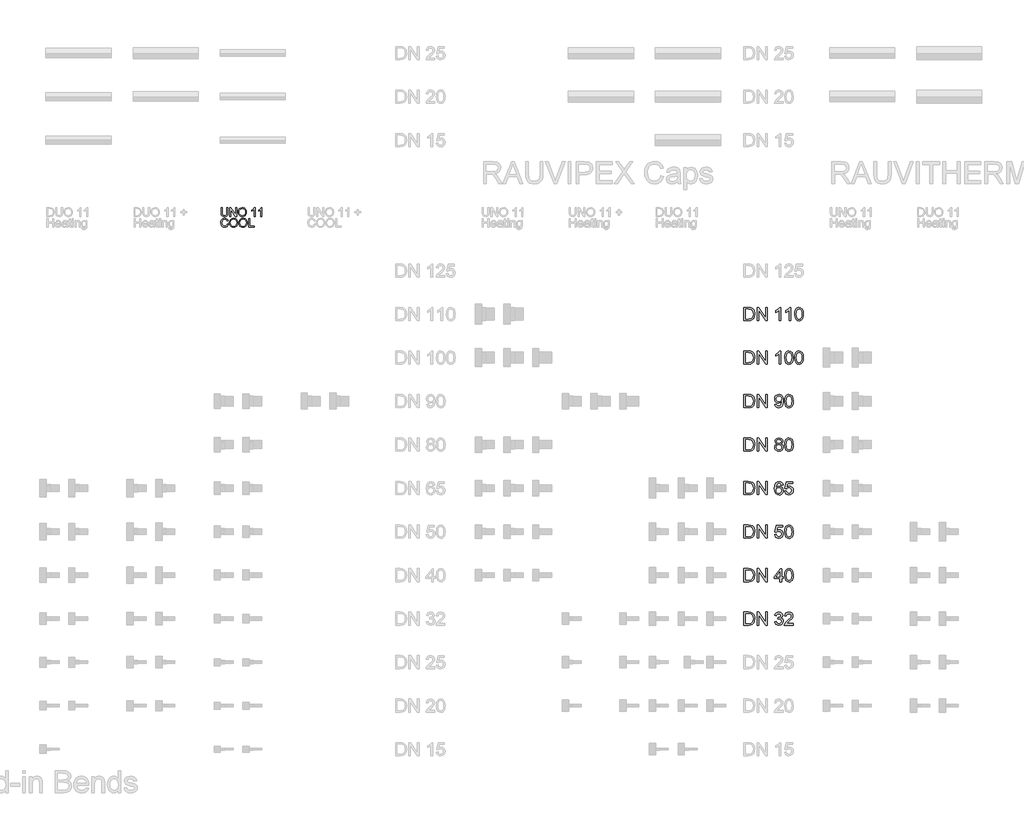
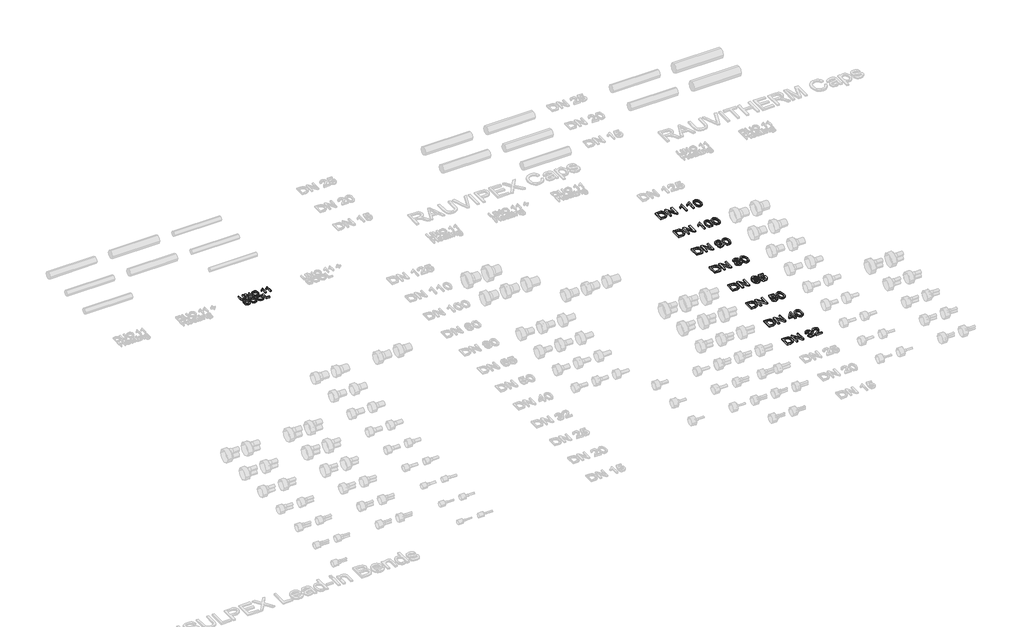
# One storey, part 26 of 44: 9 proxies.
"""IFC4 building model written with IfcOpenShell, lengths in millimetres."""

from ifc_helpers import new_model, si_unit, origin, origin_with_axes, place, context, project, spatial, polyline, outline, extrude, element, save

model = new_model("IFC4")

# Units and contexts
model_context = context("Model", 3, world=origin())
ifc_project = project(units=[si_unit("LENGTHUNIT", "METRE", prefix="MILLI")], contexts=[model_context])

# Site, building, storey
site = spatial("IfcSite", under=ifc_project)
building = spatial("IfcBuilding", under=site)
storey = spatial("IfcBuildingStorey", under=building, Name="REHAU Starting view", Elevation=0.0)

# Proxies
placement = place(None, origin())
element("IfcBuildingElementProxy", 1, Name="100", ObjectType="100", at=placement, inside=storey, context=model_context, shape_type="SweptSolid", body=[
    extrude(outline(polyline([(24076.9118625, 13222.431128), (24089.4689012, 13222.431128), (24089.4689012, 13164.477451), (24086.0598614, 13140.4547567), (24073.7726028, 13125.9847316), (24063.5086951, 13121.8000739), (24050.4734097, 13120.405188), (24027.529836, 13125.2612303), (24019.8901532, 13131.2055902), (24014.8011189, 13139.3265853), (24010.9874089, 13164.477451), (24010.9874089, 13222.431128), (24023.5444477, 13222.431128), (24023.5444477, 13164.9189094), (24026.0215198, 13145.7767829), (24034.5318566, 13136.2976902), (24049.2961874, 13132.9622268), (24062.067824, 13134.6115644), (24070.5597667, 13139.5595772), (24075.3238385, 13149.1980855), (24076.9118625, 13164.9189094), (24076.9118625, 13222.431128)])), origin_with_axes(), (0.0, 0.0, 1.0), 20.0),
    extrude(outline(polyline([(24111.4437191, 13121.9748178), (24111.4437191, 13222.431128), (24124.8836746, 13222.431128), (24177.3681726, 13142.8459897), (24177.3681726, 13222.431128), (24189.9252114, 13222.431128), (24189.9252114, 13121.9748178), (24176.4852558, 13121.9748178), (24124.0007578, 13201.5844816), (24124.0007578, 13121.9748178), (24111.4437191, 13121.9748178)])), origin_with_axes(), (0.0, 0.0, 1.0), 20.0),
    extrude(outline(polyline([(24207.1911397, 13170.8785977), (24210.5388658, 13193.0925389), (24220.5820443, 13209.8986147), (24235.9165921, 13220.4752221), (24255.1384264, 13224.0007578), (24268.3147332, 13222.3452889), (24280.1298766, 13217.3788819), (24289.9400631, 13209.4510249), (24297.1014993, 13198.9112058), (24301.479295, 13186.2683279), (24302.9385603, 13172.0312947), (24301.402653, 13157.6041891), (24296.794931, 13144.7835015), (24289.369846, 13134.2252883), (24279.3818499, 13126.5856055), (24267.667874, 13121.9502924), (24255.06485, 13120.405188), (24241.6862081, 13122.1127736), (24229.8036197, 13127.2355304), (24220.0179586, 13135.3105402), (24212.9300988, 13145.8748848), (24207.1911397, 13170.8785977)]), holes=[polyline([(24219.7481785, 13170.7559704), (24222.2589731, 13155.0412778), (24229.7913569, 13143.0667189), (24241.1129253, 13135.4883498), (24254.9912736, 13132.9622268), (24269.071957, 13135.5128753), (24280.4119195, 13143.1648208), (24287.889121, 13155.5072617), (24290.3815215, 13172.1293965), (24286.1140904, 13192.8534156), (24273.6428907, 13206.575414), (24255.2120028, 13211.4437191), (24241.7046022, 13209.0984714), (24230.2205526, 13202.0627282), (24222.366272, 13189.5455433), (24219.7481785, 13170.7559704)])]), origin_with_axes(), (0.0, 0.0, 1.0), 20.0),
    extrude(outline(polyline([(24401.8252406, 13121.9748178), (24389.2682018, 13121.9748178), (24389.2682018, 13200.2601064), (24377.3733507, 13191.7865578), (24364.1541243, 13185.4467247), (24364.1541243, 13197.3170505), (24382.5604868, 13209.0647488), (24393.7318367, 13222.431128), (24401.8252406, 13222.431128), (24401.8252406, 13121.9748178)])), origin_with_axes(), (0.0, 0.0, 1.0), 20.0),
    extrude(outline(polyline([(24478.7371031, 13121.9748178), (24466.1800643, 13121.9748178), (24466.1800643, 13200.2601064), (24454.2852131, 13191.7865578), (24441.0659868, 13185.4467247), (24441.0659868, 13197.3170505), (24459.4723492, 13209.0647488), (24470.6436992, 13222.431128), (24478.7371031, 13222.431128), (24478.7371031, 13121.9748178)])), origin_with_axes(), (0.0, 0.0, 1.0), 20.0),
    extrude(outline(polyline([(24081.620752, 13035.709079), (24094.1777908, 13032.4717174), (24088.3836493, 13017.8392111), (24079.2908327, 13007.1491734), (24067.3469306, 13000.610071), (24052.9995328, 12998.4303702), (24038.4344714, 13000.0797078), (24026.8676484, 13005.0277206), (24018.0016923, 13013.1027304), (24011.5392319, 13024.1330589), (24006.2785194, 13050.9884445), (24007.7653758, 13065.6362793), (24012.225945, 13078.2852886), (24019.427235, 13088.5338678), (24029.136254, 13095.9804125), (24040.6509605, 13100.5145581), (24053.2693129, 13102.02594), (24067.0372966, 13100.0700341), (24078.4201786, 13094.2023162), (24087.0623398, 13084.7845372), (24092.6081609, 13072.1784475), (24080.0511222, 13069.1863406), (24069.7504263, 13084.6251216), (24052.7788036, 13089.4689012), (24033.133905, 13084.0978241), (24022.0361315, 13069.6768499), (24018.8355582, 13051.01297), (24022.6247427, 13029.3815087), (24034.421492, 13015.5614084), (24051.748734, 13010.9874089), (24062.2303052, 13012.544776), (24070.9644369, 13017.2168774), (24077.5587216, 13024.954662), (24081.620752, 13035.709079)])), origin_with_axes(), (0.0, 0.0, 1.0), 20.0),
    extrude(outline(polyline([(24106.7348295, 13048.9037799), (24110.0825557, 13071.117721), (24120.1257342, 13087.9237968), (24135.460282, 13098.5004042), (24154.6821162, 13102.02594), (24167.858423, 13100.370471), (24179.6735664, 13095.4040641), (24189.483753, 13087.4762071), (24196.6451892, 13076.9363879), (24201.0229849, 13064.29351), (24202.4822501, 13050.0564768), (24200.9463428, 13035.6293712), (24196.3386208, 13022.8086837), (24188.9135359, 13012.2504704), (24178.9255397, 13004.6107877), (24167.2115639, 12999.9754745), (24154.6085398, 12998.4303702), (24141.2298979, 13000.1379557), (24129.3473095, 13005.2607125), (24119.5616484, 13013.3357223), (24112.4737887, 13023.900067), (24106.7348295, 13048.9037799)]), holes=[polyline([(24119.2918683, 13048.7811526), (24121.8026629, 13033.06646), (24129.3350468, 13021.0919011), (24140.6566152, 13013.513532), (24154.5349634, 13010.9874089), (24168.6156468, 13013.5380574), (24179.9556093, 13021.1900029), (24187.4328109, 13033.5324439), (24189.9252114, 13050.1545787), (24185.6577802, 13070.8785977), (24173.1865806, 13084.6005962), (24154.7556926, 13089.4689012), (24141.248292, 13087.1236535), (24129.7642424, 13080.0879103), (24121.9099618, 13067.5707255), (24119.2918683, 13048.7811526)])]), origin_with_axes(), (0.0, 0.0, 1.0), 20.0),
    extrude(outline(polyline([(24215.0392889, 13048.9037799), (24218.3870151, 13071.117721), (24228.4301935, 13087.9237968), (24243.7647414, 13098.5004042), (24262.9865756, 13102.02594), (24276.1628824, 13100.370471), (24287.9780258, 13095.4040641), (24297.7882124, 13087.4762071), (24304.9496485, 13076.9363879), (24309.3274443, 13064.29351), (24310.7867095, 13050.0564768), (24309.2508022, 13035.6293712), (24304.6430802, 13022.8086837), (24297.2179953, 13012.2504704), (24287.2299991, 13004.6107877), (24275.5160232, 12999.9754745), (24262.9129992, 12998.4303702), (24249.5343573, 13000.1379557), (24237.6517689, 13005.2607125), (24227.8661078, 13013.3357223), (24220.778248, 13023.900067), (24215.0392889, 13048.9037799)]), holes=[polyline([(24227.5963277, 13048.7811526), (24230.1071223, 13033.06646), (24237.6395062, 13021.0919011), (24248.9610746, 13013.513532), (24262.8394228, 13010.9874089), (24276.9201062, 13013.5380574), (24288.2600687, 13021.1900029), (24295.7372702, 13033.5324439), (24298.2296708, 13050.1545787), (24293.9622396, 13070.8785977), (24281.49104, 13084.6005962), (24263.060152, 13089.4689012), (24249.5527514, 13087.1236535), (24238.0687018, 13080.0879103), (24230.2144212, 13067.5707255), (24227.5963277, 13048.7811526)])]), origin_with_axes(), (0.0, 0.0, 1.0), 20.0),
    extrude(outline(polyline([(24328.0526378, 13000.0), (24328.0526378, 13100.4563101), (24340.6096766, 13100.4563101), (24340.6096766, 13012.5570388), (24390.8378317, 13012.5570388), (24390.8378317, 13000.0), (24328.0526378, 13000.0)])), origin_with_axes(), (0.0, 0.0, 1.0), 20.0),
])
element("IfcBuildingElementProxy", 2, Name="150", ObjectType="150", at=placement, inside=storey, context=model_context, shape_type="SweptSolid", body=[
    extrude(outline(polyline([(30016.4811134, 8425.0), (30016.4811134, 8575.6844652), (30068.4628393, 8575.6844652), (30095.3550131, 8573.5139615), (30117.5015093, 8562.735019), (30127.9217668, 8551.2571007), (30135.343786, 8536.9832793), (30139.7859611, 8520.1894663), (30141.2666861, 8501.151573), (30137.2567724, 8470.7461261), (30126.9560765, 8448.8019651), (30113.1972899, 8435.135149), (30095.1894663, 8427.575174), (30070.9644369, 8425.0), (30016.4811134, 8425.0)]), holes=[polyline([(30035.3166715, 8443.8355582), (30068.6467803, 8443.8355582), (30092.8902038, 8446.5578849), (30106.8697196, 8454.2466186), (30118.3292437, 8472.9534181), (30122.431128, 8501.4458786), (30120.4215726, 8521.9736939), (30114.3929064, 8537.1304321), (30105.4855636, 8547.5414926), (30094.8399784, 8553.8322747), (30068.1317455, 8556.8489071), (30035.3166715, 8556.8489071), (30035.3166715, 8443.8355582)])]), origin_with_axes(), (0.0, 0.0, 1.0), 20.0),
    extrude(outline(polyline([(30167.1655786, 8425.0), (30167.1655786, 8575.6844652), (30187.3255119, 8575.6844652), (30266.0522589, 8456.3067578), (30266.0522589, 8575.6844652), (30284.8878171, 8575.6844652), (30284.8878171, 8425.0), (30264.7278837, 8425.0), (30186.0011368, 8544.4144956), (30186.0011368, 8425.0), (30167.1655786, 8425.0)])), origin_with_axes(), (0.0, 0.0, 1.0), 20.0),
    extrude(outline(polyline([(30369.6478288, 8465.0255611), (30388.4833869, 8467.3800058), (30392.7002343, 8455.5434026), (30398.8760533, 8447.5511663), (30407.3143465, 8442.9986266), (30418.3186167, 8441.4811134), (30431.2312747, 8443.5688437), (30441.2008768, 8449.8320347), (30447.5744324, 8459.1762374), (30449.6989509, 8470.5070028), (30447.5928265, 8481.2629526), (30441.2744532, 8489.9863544), (30431.7095213, 8495.7667003), (30419.8637211, 8497.6934822), (30406.6567575, 8495.6333431), (30408.7536848, 8514.4689012), (30411.7703172, 8514.248172), (30433.1442611, 8519.6560374), (30440.2627777, 8526.5170366), (30442.6356166, 8536.2843035), (30440.9157683, 8544.4190942), (30435.7562233, 8551.0179774), (30427.8835486, 8555.3911747), (30418.0243111, 8556.8489071), (30408.1466795, 8555.3773791), (30400.0716698, 8550.9627951), (30394.1763608, 8543.6051552), (30390.8378317, 8533.3044594), (30372.0022735, 8535.6589041), (30377.5480946, 8552.5722789), (30387.4165291, 8565.1998284), (30400.9177983, 8573.063306), (30417.3621235, 8575.6844652), (30440.0788367, 8570.5157232), (30455.9713389, 8556.3890546), (30461.4711747, 8537.3879495), (30456.2472504, 8520.0239194), (30440.7962066, 8507.5527197), (30452.5868246, 8502.7886479), (30461.324022, 8494.6768499), (30466.7318873, 8483.6587841), (30468.5345091, 8470.175909), (30464.9292655, 8451.8185974), (30454.1135348, 8436.4779182), (30437.7887713, 8426.103646), (30417.6564291, 8422.6455552), (30399.4462704, 8425.5978082), (30384.620626, 8434.4545673), (30374.310733, 8448.0018217), (30369.6478288, 8465.0255611)])), origin_with_axes(), (0.0, 0.0, 1.0), 20.0),
    extrude(outline(polyline([(30581.547858, 8443.8355582), (30581.547858, 8425.0), (30482.6611777, 8425.0), (30484.6845286, 8437.9862344), (30496.1256587, 8457.9806209), (30519.7068946, 8479.8144173), (30552.227663, 8511.1947515), (30558.325307, 8522.0104821), (30560.3578551, 8532.5319072), (30558.4402702, 8541.9634818), (30552.6875155, 8549.8039669), (30543.844552, 8555.087672), (30532.6563408, 8556.8489071), (30520.9071096, 8555.1290587), (30511.7790376, 8549.9695138), (30505.8883271, 8541.7749423), (30503.8511806, 8530.9500146), (30485.0156224, 8533.3044594), (30489.5819577, 8551.5238152), (30499.4549908, 8564.8319464), (30514.1196868, 8572.9713355), (30533.061011, 8575.6844652), (30552.140291, 8572.6678329), (30566.7773959, 8563.6179358), (30576.0894089, 8550.0982725), (30579.1934132, 8533.6723414), (30575.8456871, 8515.8116705), (30564.7172567, 8497.3439944), (30537.7331123, 8471.5370724), (30516.0648628, 8453.4188841), (30507.5667887, 8443.8355582), (30581.547858, 8443.8355582)])), origin_with_axes(), (0.0, 0.0, 1.0), 20.0),
])
element("IfcBuildingElementProxy", 3, Name="150", ObjectType="150", at=placement, inside=storey, context=model_context, shape_type="SweptSolid", body=[
    extrude(outline(polyline([(30016.4811134, 8925.0), (30016.4811134, 9075.6844652), (30068.4628393, 9075.6844652), (30095.3550131, 9073.5139615), (30117.5015093, 9062.735019), (30127.9217668, 9051.2571007), (30135.343786, 9036.9832793), (30139.7859611, 9020.1894663), (30141.2666861, 9001.151573), (30137.2567724, 8970.7461261), (30126.9560765, 8948.8019651), (30113.1972899, 8935.135149), (30095.1894663, 8927.575174), (30070.9644369, 8925.0), (30016.4811134, 8925.0)]), holes=[polyline([(30035.3166715, 8943.8355582), (30068.6467803, 8943.8355582), (30092.8902038, 8946.5578849), (30106.8697196, 8954.2466186), (30118.3292437, 8972.9534181), (30122.431128, 9001.4458786), (30120.4215726, 9021.9736939), (30114.3929064, 9037.1304321), (30105.4855636, 9047.5414926), (30094.8399784, 9053.8322747), (30068.1317455, 9056.8489071), (30035.3166715, 9056.8489071), (30035.3166715, 8943.8355582)])]), origin_with_axes(), (0.0, 0.0, 1.0), 20.0),
    extrude(outline(polyline([(30167.1655786, 8925.0), (30167.1655786, 9075.6844652), (30187.3255119, 9075.6844652), (30266.0522589, 8956.3067578), (30266.0522589, 9075.6844652), (30284.8878171, 9075.6844652), (30284.8878171, 8925.0), (30264.7278837, 8925.0), (30186.0011368, 9044.4144956), (30186.0011368, 8925.0), (30167.1655786, 8925.0)])), origin_with_axes(), (0.0, 0.0, 1.0), 20.0),
    extrude(outline(polyline([(30430.8633928, 8925.0), (30430.8633928, 8960.3166715), (30362.5844944, 8960.3166715), (30362.5844944, 8979.1522297), (30435.5722823, 9073.3300205), (30449.6989509, 9073.3300205), (30449.6989509, 8979.1522297), (30468.5345091, 8979.1522297), (30468.5345091, 8960.3166715), (30449.6989509, 8960.3166715), (30449.6989509, 8925.0), (30430.8633928, 8925.0)]), holes=[polyline([(30430.8633928, 8979.1522297), (30430.8633928, 9037.3511613), (30385.7610601, 8979.1522297), (30430.8633928, 8979.1522297)])]), origin_with_axes(), (0.0, 0.0, 1.0), 20.0),
    extrude(outline(polyline([(30485.0156224, 8999.128222), (30486.3997784, 9023.2474853), (30490.5522465, 9042.4831152), (30497.4316398, 9057.1294171), (30506.9965717, 9067.4806967), (30519.31602, 9073.6335231), (30534.4589626, 9075.6844652), (30556.4583059, 9070.8284229), (30571.6518323, 9056.830513), (30580.4810002, 9034.5368641), (30583.9023027, 8999.128222), (30582.5319423, 8975.1469145), (30578.420861, 8955.9572699), (30571.5828544, 8941.2971724), (30562.0317181, 8930.904506), (30549.6846787, 8924.7102929), (30534.4589626, 8922.6455552), (30514.8876404, 8926.2324047), (30500.0252078, 8936.992953), (30488.7680188, 8962.4779783), (30485.0156224, 8999.128222)]), holes=[polyline([(30503.8511806, 8999.1650102), (30506.0584726, 8969.536714), (30512.6803485, 8952.3888145), (30522.5395859, 8944.2080387), (30534.4589626, 8941.4811134), (30546.3783392, 8944.2172357), (30556.2375767, 8952.4256027), (30562.8594526, 8969.5826993), (30565.0667446, 8999.1650102), (30562.933029, 9028.1265203), (30556.5318823, 9045.407777), (30546.6910389, 9053.9886246), (30534.2382334, 9056.8489071), (30522.4476155, 9054.3289154), (30512.9746541, 9046.7689404), (30506.132049, 9028.4116288), (30503.8511806, 8999.1650102)])]), origin_with_axes(), (0.0, 0.0, 1.0), 20.0),
])
element("IfcBuildingElementProxy", 4, Name="150", ObjectType="150", at=placement, inside=storey, context=model_context, shape_type="SweptSolid", body=[
    extrude(outline(polyline([(30016.4811134, 9425.0), (30016.4811134, 9575.6844652), (30068.4628393, 9575.6844652), (30095.3550131, 9573.5139615), (30117.5015093, 9562.735019), (30127.9217668, 9551.2571007), (30135.343786, 9536.9832793), (30139.7859611, 9520.1894663), (30141.2666861, 9501.151573), (30137.2567724, 9470.7461261), (30126.9560765, 9448.8019651), (30113.1972899, 9435.135149), (30095.1894663, 9427.575174), (30070.9644369, 9425.0), (30016.4811134, 9425.0)]), holes=[polyline([(30035.3166715, 9443.8355582), (30068.6467803, 9443.8355582), (30092.8902038, 9446.5578849), (30106.8697196, 9454.2466186), (30118.3292437, 9472.9534181), (30122.431128, 9501.4458786), (30120.4215726, 9521.9736939), (30114.3929064, 9537.1304321), (30105.4855636, 9547.5414926), (30094.8399784, 9553.8322747), (30068.1317455, 9556.8489071), (30035.3166715, 9556.8489071), (30035.3166715, 9443.8355582)])]), origin_with_axes(), (0.0, 0.0, 1.0), 20.0),
    extrude(outline(polyline([(30167.1655786, 9425.0), (30167.1655786, 9575.6844652), (30187.3255119, 9575.6844652), (30266.0522589, 9456.3067578), (30266.0522589, 9575.6844652), (30284.8878171, 9575.6844652), (30284.8878171, 9425.0), (30264.7278837, 9425.0), (30186.0011368, 9544.4144956), (30186.0011368, 9425.0), (30167.1655786, 9425.0)])), origin_with_axes(), (0.0, 0.0, 1.0), 20.0),
    extrude(outline(polyline([(30369.6478288, 9465.0255611), (30388.4833869, 9467.3800058), (30391.9414777, 9456.072233), (30397.9747424, 9447.9742306), (30406.5555899, 9443.1043927), (30417.6564291, 9441.4811134), (30431.1576983, 9443.7389891), (30441.2744532, 9450.5126164), (30447.5928265, 9461.0202459), (30449.6989509, 9474.4801284), (30447.7261837, 9487.1536631), (30441.8078821, 9496.8473537), (30431.8980609, 9503.00018), (30417.9507347, 9505.0511222), (30401.414439, 9501.7769724), (30390.8378317, 9493.2788983), (30372.0022735, 9495.6333431), (30388.4833869, 9573.3300205), (30461.4711747, 9573.3300205), (30461.4711747, 9554.4944623), (30403.7137015, 9554.4944623), (30395.6570858, 9512.9973732), (30409.1123698, 9521.1643535), (30423.2114473, 9523.8866803), (30440.8100022, 9520.511363), (30455.4195159, 9510.3854111), (30465.2557608, 9494.9527614), (30468.5345091, 9475.6573507), (30465.582256, 9456.8217926), (30456.725497, 9440.7085612), (30439.766137, 9427.1613067), (30417.5828527, 9422.6455552), (30399.0829869, 9425.5472245), (30384.3447145, 9434.2522322), (30374.2417552, 9447.7489029), (30369.6478288, 9465.0255611)])), origin_with_axes(), (0.0, 0.0, 1.0), 20.0),
    extrude(outline(polyline([(30485.0156224, 9499.128222), (30486.3997784, 9523.2474853), (30490.5522465, 9542.4831152), (30497.4316398, 9557.1294171), (30506.9965717, 9567.4806967), (30519.31602, 9573.6335231), (30534.4589626, 9575.6844652), (30556.4583059, 9570.8284229), (30571.6518323, 9556.830513), (30580.4810002, 9534.5368641), (30583.9023027, 9499.128222), (30582.5319423, 9475.1469145), (30578.420861, 9455.9572699), (30571.5828544, 9441.2971724), (30562.0317181, 9430.904506), (30549.6846787, 9424.7102929), (30534.4589626, 9422.6455552), (30514.8876404, 9426.2324047), (30500.0252078, 9436.992953), (30488.7680188, 9462.4779783), (30485.0156224, 9499.128222)]), holes=[polyline([(30503.8511806, 9499.1650102), (30506.0584726, 9469.536714), (30512.6803485, 9452.3888145), (30522.5395859, 9444.2080387), (30534.4589626, 9441.4811134), (30546.3783392, 9444.2172357), (30556.2375767, 9452.4256027), (30562.8594526, 9469.5826993), (30565.0667446, 9499.1650102), (30562.933029, 9528.1265203), (30556.5318823, 9545.407777), (30546.6910389, 9553.9886246), (30534.2382334, 9556.8489071), (30522.4476155, 9554.3289154), (30512.9746541, 9546.7689404), (30506.132049, 9528.4116288), (30503.8511806, 9499.1650102)])]), origin_with_axes(), (0.0, 0.0, 1.0), 20.0),
])
element("IfcBuildingElementProxy", 5, Name="150", ObjectType="150", at=placement, inside=storey, context=model_context, shape_type="SweptSolid", body=[
    extrude(outline(polyline([(30016.4811134, 9925.0), (30016.4811134, 10075.6844652), (30068.4628393, 10075.6844652), (30095.3550131, 10073.5139615), (30117.5015093, 10062.735019), (30127.9217668, 10051.2571007), (30135.343786, 10036.9832793), (30139.7859611, 10020.1894663), (30141.2666861, 10001.151573), (30137.2567724, 9970.7461261), (30126.9560765, 9948.8019651), (30113.1972899, 9935.135149), (30095.1894663, 9927.575174), (30070.9644369, 9925.0), (30016.4811134, 9925.0)]), holes=[polyline([(30035.3166715, 9943.8355582), (30068.6467803, 9943.8355582), (30092.8902038, 9946.5578849), (30106.8697196, 9954.2466186), (30118.3292437, 9972.9534181), (30122.431128, 10001.4458786), (30120.4215726, 10021.9736939), (30114.3929064, 10037.1304321), (30105.4855636, 10047.5414926), (30094.8399784, 10053.8322747), (30068.1317455, 10056.8489071), (30035.3166715, 10056.8489071), (30035.3166715, 9943.8355582)])]), origin_with_axes(), (0.0, 0.0, 1.0), 20.0),
    extrude(outline(polyline([(30167.1655786, 9925.0), (30167.1655786, 10075.6844652), (30187.3255119, 10075.6844652), (30266.0522589, 9956.3067578), (30266.0522589, 10075.6844652), (30284.8878171, 10075.6844652), (30284.8878171, 9925.0), (30264.7278837, 9925.0), (30186.0011368, 10044.4144956), (30186.0011368, 9925.0), (30167.1655786, 9925.0)])), origin_with_axes(), (0.0, 0.0, 1.0), 20.0),
    extrude(outline(polyline([(30466.1800643, 10035.6589041), (30447.3445061, 10033.3044594), (30440.2075954, 10049.0130206), (30431.6635361, 10054.8899354), (30421.3352491, 10056.8489071), (30404.3391009, 10052.2871703), (30391.4816252, 10035.1622635), (30387.5774775, 10021.1321639), (30386.1289421, 10001.5930314), (30402.7388142, 10016.6210109), (30423.3218118, 10021.5322355), (30440.7226302, 10018.1753123), (30455.3275454, 10008.1045427), (30465.2327682, 9992.7178783), (30468.5345091, 9973.4132706), (30466.9802076, 9959.9257969), (30462.3173033, 9947.4224076), (30454.9320723, 9936.8182091), (30445.2107906, 9929.0283078), (30433.5949166, 9924.2412434), (30420.5259087, 9922.6455552), (30399.1565633, 9926.8761982), (30382.1374225, 9939.568127), (30371.0043936, 9961.9721405), (30367.293384, 9995.3390375), (30371.4136623, 10032.8538039), (30383.7744974, 10058.504376), (30400.6510839, 10071.3894429), (30422.5124715, 10075.6844652), (30439.0395701, 10073.0265178), (30452.2741249, 10065.0526756), (30461.5447511, 10052.3883379), (30466.1800643, 10035.6589041)]), holes=[polyline([(30386.1289421, 9973.7075762), (30390.4883438, 9957.3920097), (30402.0766266, 9945.5462094), (30419.0543807, 9941.4811134), (30431.4841936, 9943.5872378), (30441.2560591, 9949.9056111), (30447.588228, 9959.8384249), (30449.6989509, 9972.7878712), (30447.6158191, 9985.2176841), (30441.3664237, 9994.695244), (30431.4290113, 10000.696319), (30418.2818285, 10002.6966774), (30405.8704097, 10000.696319), (30395.4915389, 9994.695244), (30388.4695913, 9985.4476103), (30386.1289421, 9973.7075762)])]), origin_with_axes(), (0.0, 0.0, 1.0), 20.0),
    extrude(outline(polyline([(30485.0156224, 9965.0255611), (30503.8511806, 9967.3800058), (30507.3092713, 9956.072233), (30513.3425361, 9947.9742306), (30521.9233836, 9943.1043927), (30533.0242228, 9941.4811134), (30546.525492, 9943.7389891), (30556.6422469, 9950.5126164), (30562.9606202, 9961.0202459), (30565.0667446, 9974.4801284), (30563.0939774, 9987.1536631), (30557.1756758, 9996.8473537), (30547.2658545, 10003.00018), (30533.3185284, 10005.0511222), (30516.7822327, 10001.7769724), (30506.2056254, 9993.2788983), (30487.3700672, 9995.6333431), (30503.8511806, 10073.3300205), (30576.8389684, 10073.3300205), (30576.8389684, 10054.4944623), (30519.0814952, 10054.4944623), (30511.0248795, 10012.9973732), (30524.4801635, 10021.1643535), (30538.5792409, 10023.8866803), (30556.1777959, 10020.511363), (30570.7873096, 10010.3854111), (30580.6235545, 9994.9527614), (30583.9023027, 9975.6573507), (30580.9500497, 9956.8217926), (30572.0932907, 9940.7085612), (30555.1339307, 9927.1613067), (30532.9506464, 9922.6455552), (30514.4507806, 9925.5472245), (30499.7125081, 9934.2522322), (30489.6095489, 9947.7489029), (30485.0156224, 9965.0255611)])), origin_with_axes(), (0.0, 0.0, 1.0), 20.0),
])
element("IfcBuildingElementProxy", 6, Name="150", ObjectType="150", at=placement, inside=storey, context=model_context, shape_type="SweptSolid", body=[
    extrude(outline(polyline([(30016.4811134, 10425.0), (30016.4811134, 10575.6844652), (30068.4628393, 10575.6844652), (30095.3550131, 10573.5139615), (30117.5015093, 10562.735019), (30127.9217668, 10551.2571007), (30135.343786, 10536.9832793), (30139.7859611, 10520.1894663), (30141.2666861, 10501.151573), (30137.2567724, 10470.7461261), (30126.9560765, 10448.8019651), (30113.1972899, 10435.135149), (30095.1894663, 10427.575174), (30070.9644369, 10425.0), (30016.4811134, 10425.0)]), holes=[polyline([(30035.3166715, 10443.8355582), (30068.6467803, 10443.8355582), (30092.8902038, 10446.5578849), (30106.8697196, 10454.2466186), (30118.3292437, 10472.9534181), (30122.431128, 10501.4458786), (30120.4215726, 10521.9736939), (30114.3929064, 10537.1304321), (30105.4855636, 10547.5414926), (30094.8399784, 10553.8322747), (30068.1317455, 10556.8489071), (30035.3166715, 10556.8489071), (30035.3166715, 10443.8355582)])]), origin_with_axes(), (0.0, 0.0, 1.0), 20.0),
    extrude(outline(polyline([(30167.1655786, 10425.0), (30167.1655786, 10575.6844652), (30187.3255119, 10575.6844652), (30266.0522589, 10456.3067578), (30266.0522589, 10575.6844652), (30284.8878171, 10575.6844652), (30284.8878171, 10425.0), (30264.7278837, 10425.0), (30186.0011368, 10544.4144956), (30186.0011368, 10425.0), (30167.1655786, 10425.0)])), origin_with_axes(), (0.0, 0.0, 1.0), 20.0),
    extrude(outline(polyline([(30397.0918256, 10507.9941781), (30379.9301305, 10519.6928256), (30374.3567183, 10537.9029843), (30377.3917448, 10552.6274612), (30386.4968241, 10564.7951582), (30400.6510839, 10572.9621385), (30418.8336515, 10575.6844652), (30437.1265837, 10572.8977591), (30451.4647845, 10564.5376408), (30460.7354108, 10552.1768057), (30463.8256195, 10537.3879495), (30458.3257837, 10519.6376433), (30441.6423352, 10507.9941781), (30453.2352166, 10502.0206942), (30461.6735098, 10493.223716), (30466.8192593, 10482.0263078), (30468.5345091, 10468.8515338), (30465.1316006, 10450.8437102), (30454.9228752, 10435.9628835), (30439.1591317, 10425.9748873), (30419.0911689, 10422.6455552), (30399.0232061, 10425.9886829), (30383.2594626, 10436.0180658), (30373.0507372, 10451.0414467), (30369.6478288, 10469.3665686), (30371.4320564, 10483.0517788), (30376.7847395, 10494.3089679), (30385.4299663, 10502.7518597), (30397.0918256, 10507.9941781)]), holes=[polyline([(30393.1922764, 10537.3511613), (30394.861541, 10529.1289987), (30399.8693347, 10522.5623051), (30408.0685046, 10518.2580858), (30419.3118981, 10516.823346), (30430.2931757, 10518.2488887), (30438.3681855, 10522.5255169), (30443.3345924, 10528.8714813), (30444.9900614, 10536.5050327), (30443.2794101, 10544.4282912), (30438.1474563, 10550.9811892), (30429.9620819, 10555.3819776), (30419.0911689, 10556.8489071), (30408.1512781, 10555.4141673), (30399.9796993, 10551.1099479), (30394.8891321, 10544.8007717), (30393.1922764, 10537.3511613)]), polyline([(30388.4833869, 10470.0287562), (30391.628778, 10455.8469053), (30402.7572083, 10445.2335097), (30419.2383217, 10441.4811134), (30432.0590092, 10443.4538806), (30441.6791234, 10449.3721822), (30447.693994, 10458.3347073), (30449.6989509, 10469.440145), (30447.6296147, 10480.7341223), (30441.421606, 10489.8943839), (30431.5807626, 10495.9644369), (30418.6129223, 10497.9877878), (30405.9715773, 10495.992028), (30396.4480321, 10490.0047485), (30390.4745482, 10481.0192308), (30388.4833869, 10470.0287562)])]), origin_with_axes(), (0.0, 0.0, 1.0), 20.0),
    extrude(outline(polyline([(30485.0156224, 10499.128222), (30486.3997784, 10523.2474853), (30490.5522465, 10542.4831152), (30497.4316398, 10557.1294171), (30506.9965717, 10567.4806967), (30519.31602, 10573.6335231), (30534.4589626, 10575.6844652), (30556.4583059, 10570.8284229), (30571.6518323, 10556.830513), (30580.4810002, 10534.5368641), (30583.9023027, 10499.128222), (30582.5319423, 10475.1469145), (30578.420861, 10455.9572699), (30571.5828544, 10441.2971724), (30562.0317181, 10430.904506), (30549.6846787, 10424.7102929), (30534.4589626, 10422.6455552), (30514.8876404, 10426.2324047), (30500.0252078, 10436.992953), (30488.7680188, 10462.4779783), (30485.0156224, 10499.128222)]), holes=[polyline([(30503.8511806, 10499.1650102), (30506.0584726, 10469.536714), (30512.6803485, 10452.3888145), (30522.5395859, 10444.2080387), (30534.4589626, 10441.4811134), (30546.3783392, 10444.2172357), (30556.2375767, 10452.4256027), (30562.8594526, 10469.5826993), (30565.0667446, 10499.1650102), (30562.933029, 10528.1265203), (30556.5318823, 10545.407777), (30546.6910389, 10553.9886246), (30534.2382334, 10556.8489071), (30522.4476155, 10554.3289154), (30512.9746541, 10546.7689404), (30506.132049, 10528.4116288), (30503.8511806, 10499.1650102)])]), origin_with_axes(), (0.0, 0.0, 1.0), 20.0),
])
element("IfcBuildingElementProxy", 7, Name="150", ObjectType="150", at=placement, inside=storey, context=model_context, shape_type="SweptSolid", body=[
    extrude(outline(polyline([(30016.4811134, 10925.0), (30016.4811134, 11075.6844652), (30068.4628393, 11075.6844652), (30095.3550131, 11073.5139615), (30117.5015093, 11062.735019), (30127.9217668, 11051.2571007), (30135.343786, 11036.9832793), (30139.7859611, 11020.1894663), (30141.2666861, 11001.151573), (30137.2567724, 10970.7461261), (30126.9560765, 10948.8019651), (30113.1972899, 10935.135149), (30095.1894663, 10927.575174), (30070.9644369, 10925.0), (30016.4811134, 10925.0)]), holes=[polyline([(30035.3166715, 10943.8355582), (30068.6467803, 10943.8355582), (30092.8902038, 10946.5578849), (30106.8697196, 10954.2466186), (30118.3292437, 10972.9534181), (30122.431128, 11001.4458786), (30120.4215726, 11021.9736939), (30114.3929064, 11037.1304321), (30105.4855636, 11047.5414926), (30094.8399784, 11053.8322747), (30068.1317455, 11056.8489071), (30035.3166715, 11056.8489071), (30035.3166715, 10943.8355582)])]), origin_with_axes(), (0.0, 0.0, 1.0), 20.0),
    extrude(outline(polyline([(30167.1655786, 10925.0), (30167.1655786, 11075.6844652), (30187.3255119, 11075.6844652), (30266.0522589, 10956.3067578), (30266.0522589, 11075.6844652), (30284.8878171, 11075.6844652), (30284.8878171, 10925.0), (30264.7278837, 10925.0), (30186.0011368, 11044.4144956), (30186.0011368, 10925.0), (30167.1655786, 10925.0)])), origin_with_axes(), (0.0, 0.0, 1.0), 20.0),
    extrude(outline(polyline([(30372.0022735, 10962.6711163), (30390.8378317, 10965.0255611), (30394.0567991, 10954.3339906), (30399.2991176, 10947.0545256), (30406.4360283, 10942.8744664), (30415.3387726, 10941.4811134), (30430.5874813, 10945.0679628), (30440.9249653, 10954.6512888), (30447.0869887, 10971.0220376), (30449.8093155, 10992.8742281), (30449.6989509, 10996.5530481), (30434.6341832, 10982.2792266), (30413.9776092, 10976.7977849), (30396.8021185, 10980.1455111), (30382.5053045, 10990.1886895), (30372.8621977, 11005.7041127), (30369.6478288, 11025.4685729), (30373.0185475, 11045.8860236), (30383.1307039, 11061.8888904), (30398.3196318, 11072.2355715), (30416.9206651, 11075.6844652), (30430.9691588, 11073.7162966), (30443.7576567, 11067.8117905), (30454.4538257, 11058.2652528), (30462.2253328, 11045.3709888), (30466.957215, 11027.5471062), (30468.5345091, 11003.2117122), (30466.9618135, 10977.4093887), (30462.2437269, 10957.4655861), (30454.421636, 10942.4789933), (30443.5369275, 10931.5482995), (30430.0586509, 10924.8712413), (30414.4558558, 10922.6455552), (30398.3518214, 10925.271313), (30385.5035427, 10933.1485862), (30376.518025, 10945.7807342), (30372.0022735, 10962.6711163)]), holes=[polyline([(30449.6989509, 11025.9100313), (30447.6664029, 11038.6755365), (30441.5687588, 11048.4979858), (30432.1049945, 11054.7611767), (30419.9740857, 11056.8489071), (30407.3925215, 11054.6002284), (30397.3125548, 11047.8541923), (30390.6906789, 11037.5305038), (30388.4833869, 11024.5488679), (30390.5711172, 11012.9100013), (30396.8343082, 11003.6715647), (30406.6659545, 10997.6428985), (30419.4590509, 10995.6333431), (30431.4933907, 10997.6428985), (30441.1824827, 11003.6715647), (30447.5698339, 11013.2502921), (30449.6989509, 11025.9100313)])]), origin_with_axes(), (0.0, 0.0, 1.0), 20.0),
    extrude(outline(polyline([(30485.0156224, 10999.128222), (30486.3997784, 11023.2474853), (30490.5522465, 11042.4831152), (30497.4316398, 11057.1294171), (30506.9965717, 11067.4806967), (30519.31602, 11073.6335231), (30534.4589626, 11075.6844652), (30556.4583059, 11070.8284229), (30571.6518323, 11056.830513), (30580.4810002, 11034.5368641), (30583.9023027, 10999.128222), (30582.5319423, 10975.1469145), (30578.420861, 10955.9572699), (30571.5828544, 10941.2971724), (30562.0317181, 10930.904506), (30549.6846787, 10924.7102929), (30534.4589626, 10922.6455552), (30514.8876404, 10926.2324047), (30500.0252078, 10936.992953), (30488.7680188, 10962.4779783), (30485.0156224, 10999.128222)]), holes=[polyline([(30503.8511806, 10999.1650102), (30506.0584726, 10969.536714), (30512.6803485, 10952.3888145), (30522.5395859, 10944.2080387), (30534.4589626, 10941.4811134), (30546.3783392, 10944.2172357), (30556.2375767, 10952.4256027), (30562.8594526, 10969.5826993), (30565.0667446, 10999.1650102), (30562.933029, 11028.1265203), (30556.5318823, 11045.407777), (30546.6910389, 11053.9886246), (30534.2382334, 11056.8489071), (30522.4476155, 11054.3289154), (30512.9746541, 11046.7689404), (30506.132049, 11028.4116288), (30503.8511806, 10999.1650102)])]), origin_with_axes(), (0.0, 0.0, 1.0), 20.0),
])
element("IfcBuildingElementProxy", 8, Name="150", ObjectType="150", at=placement, inside=storey, context=model_context, shape_type="SweptSolid", body=[
    extrude(outline(polyline([(30016.4811134, 11425.0), (30016.4811134, 11575.6844652), (30068.4628393, 11575.6844652), (30095.3550131, 11573.5139615), (30117.5015093, 11562.735019), (30127.9217668, 11551.2571007), (30135.343786, 11536.9832793), (30139.7859611, 11520.1894663), (30141.2666861, 11501.151573), (30137.2567724, 11470.7461261), (30126.9560765, 11448.8019651), (30113.1972899, 11435.135149), (30095.1894663, 11427.575174), (30070.9644369, 11425.0), (30016.4811134, 11425.0)]), holes=[polyline([(30035.3166715, 11443.8355582), (30068.6467803, 11443.8355582), (30092.8902038, 11446.5578849), (30106.8697196, 11454.2466186), (30118.3292437, 11472.9534181), (30122.431128, 11501.4458786), (30120.4215726, 11521.9736939), (30114.3929064, 11537.1304321), (30105.4855636, 11547.5414926), (30094.8399784, 11553.8322747), (30068.1317455, 11556.8489071), (30035.3166715, 11556.8489071), (30035.3166715, 11443.8355582)])]), origin_with_axes(), (0.0, 0.0, 1.0), 20.0),
    extrude(outline(polyline([(30167.1655786, 11425.0), (30167.1655786, 11575.6844652), (30187.3255119, 11575.6844652), (30266.0522589, 11456.3067578), (30266.0522589, 11575.6844652), (30284.8878171, 11575.6844652), (30284.8878171, 11425.0), (30264.7278837, 11425.0), (30186.0011368, 11544.4144956), (30186.0011368, 11425.0), (30167.1655786, 11425.0)])), origin_with_axes(), (0.0, 0.0, 1.0), 20.0),
    extrude(outline(polyline([(30440.2811718, 11425.0), (30421.4456137, 11425.0), (30421.4456137, 11542.4279329), (30403.6033369, 11529.7176099), (30383.7744974, 11520.2078604), (30383.7744974, 11538.0133489), (30411.3840411, 11555.6348965), (30428.141066, 11575.6844652), (30440.2811718, 11575.6844652), (30440.2811718, 11425.0)])), origin_with_axes(), (0.0, 0.0, 1.0), 20.0),
    extrude(outline(polyline([(30485.0156224, 11499.128222), (30486.3997784, 11523.2474853), (30490.5522465, 11542.4831152), (30497.4316398, 11557.1294171), (30506.9965717, 11567.4806967), (30519.31602, 11573.6335231), (30534.4589626, 11575.6844652), (30556.4583059, 11570.8284229), (30571.6518323, 11556.830513), (30580.4810002, 11534.5368641), (30583.9023027, 11499.128222), (30582.5319423, 11475.1469145), (30578.420861, 11455.9572699), (30571.5828544, 11441.2971724), (30562.0317181, 11430.904506), (30549.6846787, 11424.7102929), (30534.4589626, 11422.6455552), (30514.8876404, 11426.2324047), (30500.0252078, 11436.992953), (30488.7680188, 11462.4779783), (30485.0156224, 11499.128222)]), holes=[polyline([(30503.8511806, 11499.1650102), (30506.0584726, 11469.536714), (30512.6803485, 11452.3888145), (30522.5395859, 11444.2080387), (30534.4589626, 11441.4811134), (30546.3783392, 11444.2172357), (30556.2375767, 11452.4256027), (30562.8594526, 11469.5826993), (30565.0667446, 11499.1650102), (30562.933029, 11528.1265203), (30556.5318823, 11545.407777), (30546.6910389, 11553.9886246), (30534.2382334, 11556.8489071), (30522.4476155, 11554.3289154), (30512.9746541, 11546.7689404), (30506.132049, 11528.4116288), (30503.8511806, 11499.1650102)])]), origin_with_axes(), (0.0, 0.0, 1.0), 20.0),
    extrude(outline(polyline([(30600.3834161, 11499.128222), (30601.7675721, 11523.2474853), (30605.9200402, 11542.4831152), (30612.7994335, 11557.1294171), (30622.3643653, 11567.4806967), (30634.6838137, 11573.6335231), (30649.8267563, 11575.6844652), (30671.8260996, 11570.8284229), (30687.019626, 11556.830513), (30695.8487939, 11534.5368641), (30699.2700964, 11499.128222), (30697.899736, 11475.1469145), (30693.7886547, 11455.9572699), (30686.9506481, 11441.2971724), (30677.3995118, 11430.904506), (30665.0524724, 11424.7102929), (30649.8267563, 11422.6455552), (30630.2554341, 11426.2324047), (30615.3930015, 11436.992953), (30604.1358125, 11462.4779783), (30600.3834161, 11499.128222)]), holes=[polyline([(30619.2189743, 11499.1650102), (30621.4262663, 11469.536714), (30628.0481422, 11452.3888145), (30637.9073796, 11444.2080387), (30649.8267563, 11441.4811134), (30661.7461329, 11444.2172357), (30671.6053704, 11452.4256027), (30678.2272463, 11469.5826993), (30680.4345383, 11499.1650102), (30678.3008227, 11528.1265203), (30671.899676, 11545.407777), (30662.0588326, 11553.9886246), (30649.6060271, 11556.8489071), (30637.8154091, 11554.3289154), (30628.3424478, 11546.7689404), (30621.4998427, 11528.4116288), (30619.2189743, 11499.1650102)])]), origin_with_axes(), (0.0, 0.0, 1.0), 20.0),
])
element("IfcBuildingElementProxy", 9, Name="150", ObjectType="150", at=placement, inside=storey, context=model_context, shape_type="SweptSolid", body=[
    extrude(outline(polyline([(30016.4811134, 11925.0), (30016.4811134, 12075.6844652), (30068.4628393, 12075.6844652), (30095.3550131, 12073.5139615), (30117.5015093, 12062.735019), (30127.9217668, 12051.2571007), (30135.343786, 12036.9832793), (30139.7859611, 12020.1894663), (30141.2666861, 12001.151573), (30137.2567724, 11970.7461261), (30126.9560765, 11948.8019651), (30113.1972899, 11935.135149), (30095.1894663, 11927.575174), (30070.9644369, 11925.0), (30016.4811134, 11925.0)]), holes=[polyline([(30035.3166715, 11943.8355582), (30068.6467803, 11943.8355582), (30092.8902038, 11946.5578849), (30106.8697196, 11954.2466186), (30118.3292437, 11972.9534181), (30122.431128, 12001.4458786), (30120.4215726, 12021.9736939), (30114.3929064, 12037.1304321), (30105.4855636, 12047.5414926), (30094.8399784, 12053.8322747), (30068.1317455, 12056.8489071), (30035.3166715, 12056.8489071), (30035.3166715, 11943.8355582)])]), origin_with_axes(), (0.0, 0.0, 1.0), 20.0),
    extrude(outline(polyline([(30167.1655786, 11925.0), (30167.1655786, 12075.6844652), (30187.3255119, 12075.6844652), (30266.0522589, 11956.3067578), (30266.0522589, 12075.6844652), (30284.8878171, 12075.6844652), (30284.8878171, 11925.0), (30264.7278837, 11925.0), (30186.0011368, 12044.4144956), (30186.0011368, 11925.0), (30167.1655786, 11925.0)])), origin_with_axes(), (0.0, 0.0, 1.0), 20.0),
    extrude(outline(polyline([(30440.2811718, 11925.0), (30421.4456137, 11925.0), (30421.4456137, 12042.4279329), (30403.6033369, 12029.7176099), (30383.7744974, 12020.2078604), (30383.7744974, 12038.0133489), (30411.3840411, 12055.6348965), (30428.141066, 12075.6844652), (30440.2811718, 12075.6844652), (30440.2811718, 11925.0)])), origin_with_axes(), (0.0, 0.0, 1.0), 20.0),
    extrude(outline(polyline([(30555.6489655, 11925.0), (30536.8134074, 11925.0), (30536.8134074, 12042.4279329), (30518.9711306, 12029.7176099), (30499.1422911, 12020.2078604), (30499.1422911, 12038.0133489), (30526.7518348, 12055.6348965), (30543.5088597, 12075.6844652), (30555.6489655, 12075.6844652), (30555.6489655, 11925.0)])), origin_with_axes(), (0.0, 0.0, 1.0), 20.0),
    extrude(outline(polyline([(30600.3834161, 11999.128222), (30601.7675721, 12023.2474853), (30605.9200402, 12042.4831152), (30612.7994335, 12057.1294171), (30622.3643653, 12067.4806967), (30634.6838137, 12073.6335231), (30649.8267563, 12075.6844652), (30671.8260996, 12070.8284229), (30687.019626, 12056.830513), (30695.8487939, 12034.5368641), (30699.2700964, 11999.128222), (30697.899736, 11975.1469145), (30693.7886547, 11955.9572699), (30686.9506481, 11941.2971724), (30677.3995118, 11930.904506), (30665.0524724, 11924.7102929), (30649.8267563, 11922.6455552), (30630.2554341, 11926.2324047), (30615.3930015, 11936.992953), (30604.1358125, 11962.4779783), (30600.3834161, 11999.128222)]), holes=[polyline([(30619.2189743, 11999.1650102), (30621.4262663, 11969.536714), (30628.0481422, 11952.3888145), (30637.9073796, 11944.2080387), (30649.8267563, 11941.4811134), (30661.7461329, 11944.2172357), (30671.6053704, 11952.4256027), (30678.2272463, 11969.5826993), (30680.4345383, 11999.1650102), (30678.3008227, 12028.1265203), (30671.899676, 12045.407777), (30662.0588326, 12053.9886246), (30649.6060271, 12056.8489071), (30637.8154091, 12054.3289154), (30628.3424478, 12046.7689404), (30621.4998427, 12028.4116288), (30619.2189743, 11999.1650102)])]), origin_with_axes(), (0.0, 0.0, 1.0), 20.0),
])

save(model, "model.ifc")
